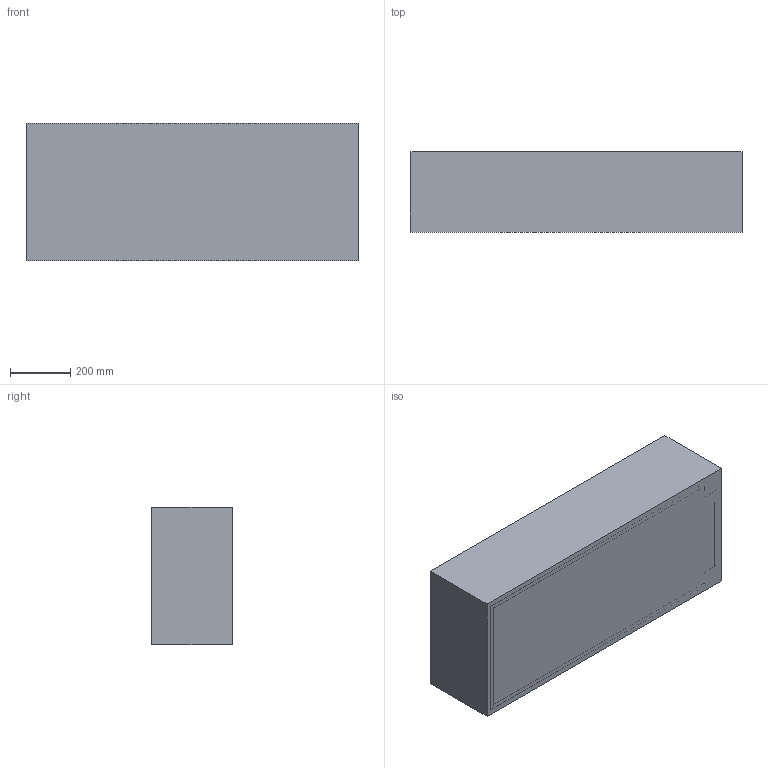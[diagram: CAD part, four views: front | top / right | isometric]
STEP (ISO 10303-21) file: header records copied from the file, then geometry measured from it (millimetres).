
FILE_DESCRIPTION (( 'STEP AP203' ), '1' );
FILE_NAME ('inside drawing bottom 7300.STEP', '2022-06-23T08:06:53', ( '' ), ( '' ), 'SwSTEP 2.0', 'SolidWorks 2022', '' );
FILE_SCHEMA (( 'CONFIG_CONTROL_DESIGN' ));
Length unit declared in the file: millimetre
Products named in the file (1): inside drawing bottom 7300
Bounding box: 1106 x 268 x 459 mm (x, y, z)
Volume: 14886624.7 mm3; surface area: 2753803.3 mm2
Topology: 1 solids, 2 shells, 276 faces, 712 edges, 468 vertices
Faces by surface type: plane 179, cylinder 44, cone 32, bspline 17, sphere 4
Entity records: 9456 total; most frequent: CARTESIAN_POINT 3063, ORIENTED_EDGE 1416, DIRECTION 1136, EDGE_CURVE 708, VECTOR 504, LINE 504, VERTEX_POINT 468, AXIS2_PLACEMENT_3D 316
